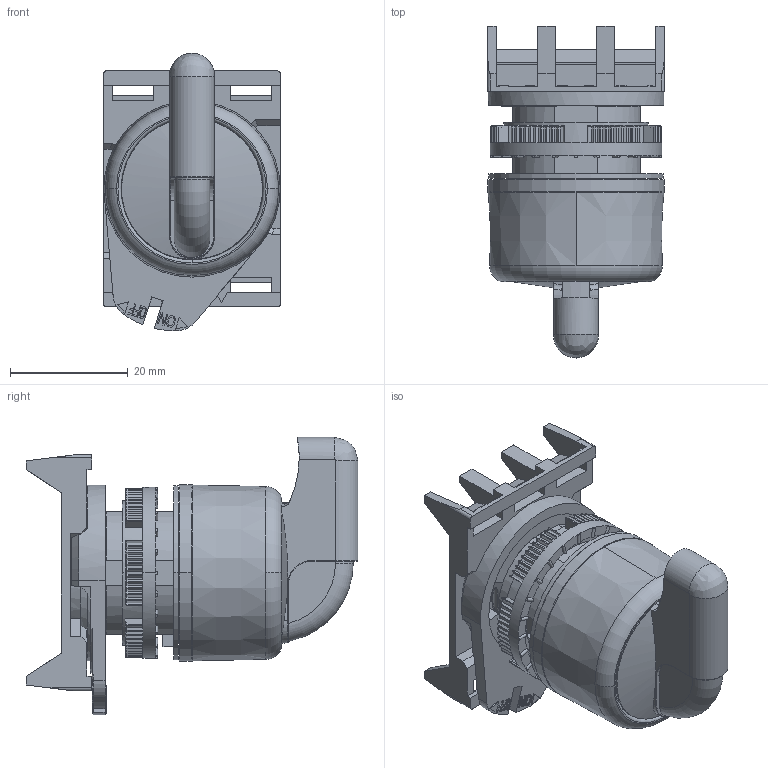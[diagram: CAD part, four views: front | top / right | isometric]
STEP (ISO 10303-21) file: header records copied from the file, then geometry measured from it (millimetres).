
FILE_DESCRIPTION(/* description */ (''),/* implementation_level */ '2;1');
FILE_NAME(/* name */ '4011046.stp',/* time_stamp */ '2019-03-05T05:08:28+01:00',/* author */ (''),/* organization */ (''),/* preprocessor_version */ 'ST-DEVELOPER v16.7',/* originating_system */ 'SIEMENS PLM Software NX 12.0',/* authorisation */ '');
FILE_SCHEMA (('AUTOMOTIVE_DESIGN { 1 0 10303 214 3 1 1 1 }'));
Length unit declared in the file: millimetre
Products named in the file (1): BSOM0DCCF74Fwwrx
Bounding box: 30 x 56.25 x 47.04 mm (x, y, z)
Volume: 16854.2 mm3; surface area: 24116.4 mm2
Topology: 11 solids, 11 shells, 2365 faces, 6496 edges, 4161 vertices
Faces by surface type: plane 1872, cylinder 294, torus 109, bspline 69, cone 14, sphere 7
Entity records: 83740 total; most frequent: CARTESIAN_POINT 24727, ORIENTED_EDGE 12992, DIRECTION 11277, EDGE_CURVE 6496, LINE 4609, VECTOR 4609, VERTEX_POINT 4161, AXIS2_PLACEMENT_3D 3334
